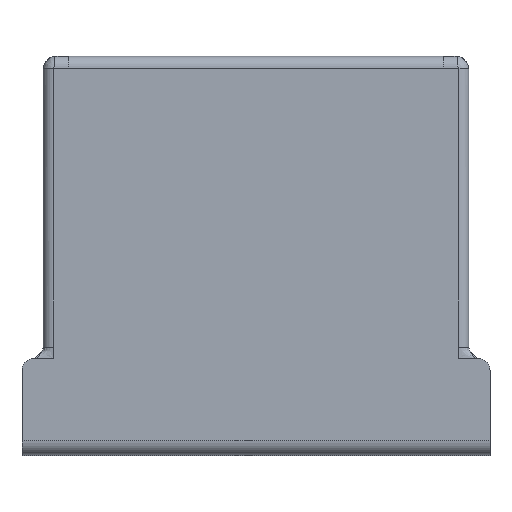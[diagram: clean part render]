
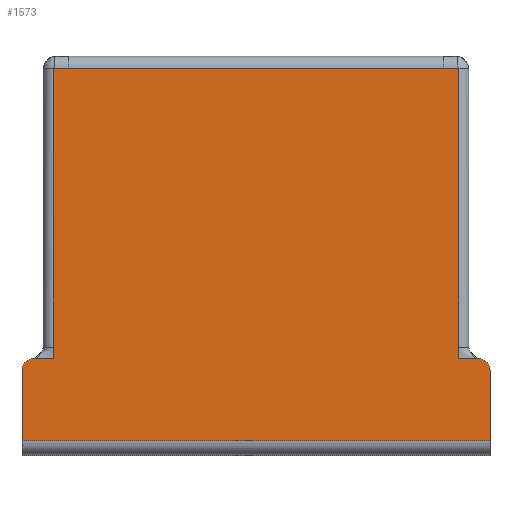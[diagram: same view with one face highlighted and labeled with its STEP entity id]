
A CAD part, top view. The second image highlights one B-rep face of the part: STEP entity #1573.
In plain terms, the highlighted planar face has unit normal (0, 0, 1).
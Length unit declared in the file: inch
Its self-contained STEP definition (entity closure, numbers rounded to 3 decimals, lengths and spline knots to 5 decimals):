
#193=CARTESIAN_POINT('',(1.5095,-0.779,0.));
#194=DIRECTION('',(0.,0.,1.));
#195=DIRECTION('',(1.,0.,0.));
#196=AXIS2_PLACEMENT_3D('',#193,#194,#195);
#198=DIRECTION('',(-1.,0.,0.));
#199=VECTOR('',#198,0.133);
#200=CARTESIAN_POINT('',(1.5095,-0.699,0.));
#201=LINE('',#200,#199);
#210=DIRECTION('',(0.,1.,0.));
#211=VECTOR('',#210,0.476);
#212=CARTESIAN_POINT('',(1.5895,-1.255,0.));
#213=LINE('',#212,#211);
#214=DIRECTION('',(0.,-1.,0.));
#215=VECTOR('',#214,0.476);
#216=CARTESIAN_POINT('',(-1.5895,-0.779,0.));
#217=LINE('',#216,#215);
#218=DIRECTION('',(0.,-1.,0.));
#219=VECTOR('',#218,0.079);
#220=CARTESIAN_POINT('',(-1.3765,-0.62,0.));
#221=LINE('',#220,#219);
#222=DIRECTION('',(-1.,0.,0.));
#223=VECTOR('',#222,0.105);
#224=CARTESIAN_POINT('',(-1.2715,1.275,0.));
#225=LINE('',#224,#223);
#226=DIRECTION('',(-1.,0.,0.));
#227=VECTOR('',#226,0.105);
#228=CARTESIAN_POINT('',(1.3765,1.275,0.));
#229=LINE('',#228,#227);
#230=DIRECTION('',(0.,-1.,0.));
#231=VECTOR('',#230,0.079);
#232=CARTESIAN_POINT('',(1.3765,-0.62,0.));
#233=LINE('',#232,#231);
#247=DIRECTION('',(-1.,0.,0.));
#248=VECTOR('',#247,3.179);
#249=CARTESIAN_POINT('',(1.5895,-1.255,0.));
#250=LINE('',#249,#248);
#427=CARTESIAN_POINT('',(-1.5095,-0.779,0.));
#428=DIRECTION('',(0.,0.,1.));
#429=DIRECTION('',(0.,1.,0.));
#430=AXIS2_PLACEMENT_3D('',#427,#428,#429);
#440=DIRECTION('',(-1.,0.,0.));
#441=VECTOR('',#440,0.133);
#442=CARTESIAN_POINT('',(-1.3765,-0.699,0.));
#443=LINE('',#442,#441);
#452=DIRECTION('',(0.,-1.,0.));
#453=VECTOR('',#452,1.895);
#454=CARTESIAN_POINT('',(-1.3765,1.275,0.));
#455=LINE('',#454,#453);
#511=DIRECTION('',(-1.,0.,0.));
#512=VECTOR('',#511,2.543);
#513=CARTESIAN_POINT('',(1.2715,1.275,0.));
#514=LINE('',#513,#512);
#787=DIRECTION('',(0.,-1.,0.));
#788=VECTOR('',#787,1.895);
#789=CARTESIAN_POINT('',(1.3765,1.275,0.));
#790=LINE('',#789,#788);
#1009=CARTESIAN_POINT('',(-1.5895,-1.255,0.));
#1010=VERTEX_POINT('',#1009);
#1011=CARTESIAN_POINT('',(1.5895,-1.255,0.));
#1012=VERTEX_POINT('',#1011);
#1041=CARTESIAN_POINT('',(1.2715,1.275,0.));
#1042=CARTESIAN_POINT('',(-1.2715,1.275,0.));
#1043=VERTEX_POINT('',#1041);
#1044=VERTEX_POINT('',#1042);
#1053=CARTESIAN_POINT('',(-1.3765,1.275,0.));
#1054=VERTEX_POINT('',#1053);
#1065=CARTESIAN_POINT('',(1.3765,1.275,0.));
#1066=VERTEX_POINT('',#1065);
#1122=CARTESIAN_POINT('',(1.5095,-0.699,0.));
#1124=VERTEX_POINT('',#1122);
#1127=CARTESIAN_POINT('',(1.5895,-0.779,0.));
#1128=VERTEX_POINT('',#1127);
#1130=CARTESIAN_POINT('',(-1.5895,-0.779,0.));
#1132=VERTEX_POINT('',#1130);
#1135=CARTESIAN_POINT('',(-1.5095,-0.699,0.));
#1136=VERTEX_POINT('',#1135);
#1157=CARTESIAN_POINT('',(-1.3765,-0.62,0.));
#1158=VERTEX_POINT('',#1157);
#1161=CARTESIAN_POINT('',(-1.3765,-0.699,0.));
#1162=VERTEX_POINT('',#1161);
#1169=CARTESIAN_POINT('',(1.3765,-0.62,0.));
#1170=CARTESIAN_POINT('',(1.3765,-0.699,0.));
#1171=VERTEX_POINT('',#1169);
#1172=VERTEX_POINT('',#1170);
#1540=CARTESIAN_POINT('',(0.,0.,0.));
#1541=DIRECTION('',(0.,0.,1.));
#1542=DIRECTION('',(1.,0.,0.));
#1543=AXIS2_PLACEMENT_3D('',#1540,#1541,#1542);
#1544=PLANE('',#1543);
#1545=ORIENTED_EDGE('',*,*,#1521,.F.);
#1547=ORIENTED_EDGE('',*,*,#1546,.F.);
#1549=ORIENTED_EDGE('',*,*,#1548,.T.);
#1551=ORIENTED_EDGE('',*,*,#1550,.F.);
#1553=ORIENTED_EDGE('',*,*,#1552,.F.);
#1555=ORIENTED_EDGE('',*,*,#1554,.F.);
#1557=ORIENTED_EDGE('',*,*,#1556,.F.);
#1559=ORIENTED_EDGE('',*,*,#1558,.F.);
#1561=ORIENTED_EDGE('',*,*,#1560,.F.);
#1563=ORIENTED_EDGE('',*,*,#1562,.F.);
#1565=ORIENTED_EDGE('',*,*,#1564,.F.);
#1567=ORIENTED_EDGE('',*,*,#1566,.T.);
#1569=ORIENTED_EDGE('',*,*,#1568,.T.);
#1570=ORIENTED_EDGE('',*,*,#1532,.F.);
#1571=EDGE_LOOP('',(#1545,#1547,#1549,#1551,#1553,#1555,#1557,#1559,#1561,#1563,
#1565,#1567,#1569,#1570));
#1572=FACE_OUTER_BOUND('',#1571,.F.);
#1573=ADVANCED_FACE('',(#1572),#1544,.T.);
#197=CIRCLE('',#196,0.08);
#431=CIRCLE('',#430,0.08);
#1521=EDGE_CURVE('',#1128,#1124,#197,.T.);
#1532=EDGE_CURVE('',#1124,#1172,#201,.T.);
#1546=EDGE_CURVE('',#1012,#1128,#213,.T.);
#1548=EDGE_CURVE('',#1012,#1010,#250,.T.);
#1550=EDGE_CURVE('',#1132,#1010,#217,.T.);
#1552=EDGE_CURVE('',#1136,#1132,#431,.T.);
#1554=EDGE_CURVE('',#1162,#1136,#443,.T.);
#1556=EDGE_CURVE('',#1158,#1162,#221,.T.);
#1558=EDGE_CURVE('',#1054,#1158,#455,.T.);
#1560=EDGE_CURVE('',#1044,#1054,#225,.T.);
#1562=EDGE_CURVE('',#1043,#1044,#514,.T.);
#1564=EDGE_CURVE('',#1066,#1043,#229,.T.);
#1566=EDGE_CURVE('',#1066,#1171,#790,.T.);
#1568=EDGE_CURVE('',#1171,#1172,#233,.T.);
